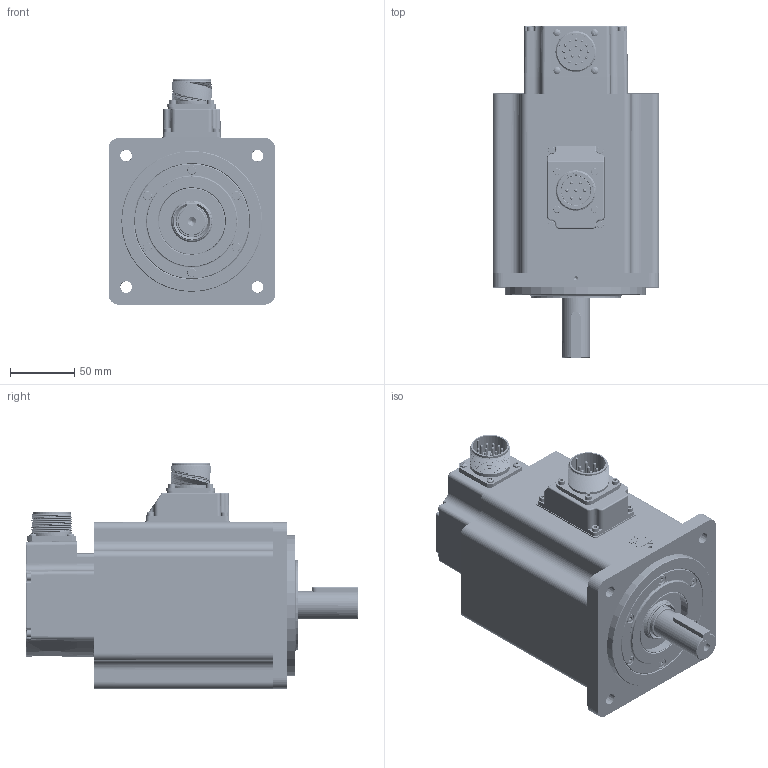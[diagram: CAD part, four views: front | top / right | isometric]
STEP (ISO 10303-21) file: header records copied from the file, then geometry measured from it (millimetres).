
FILE_DESCRIPTION(/* description */ ('AdapterTestApp'),/* implementation_level */ '2;1');
FILE_NAME(/* name */ 'TCE130 5F XX 3 A1 1 C3',/* time_stamp */ '2015-09-07T14:36:31+02:00',/* author */ ('AdapterTestApp'),/* organization */ ('Siemens PLM Software'),/* preprocessor_version */ 'ST-DEVELOPER v15.6',/* originating_system */ 'DEX',/* authorisation */ $);
FILE_SCHEMA (('AUTOMOTIVE_DESIGN {1 0 10303 214 3 1 1}'));
Products named in the file (35): TCE130 5F XX 3 A1 1 C3_vuoto; U5160002_vuoto; 003120002514; 003799000580; 003303000370; 003303000373; 005117001750; 005911000201; 005911000150; cap-M3 nudo; 005123001528; 003155002049; N0160022; 005911000493; 005123000600; 003103001510; 005911000430; 003251022006; 005751000410; 005911003646; 005113002005; back cover TCE100 + CN MIL; 001107000620; 005911000525; 003108015154; 005009000203; 005204000001; 005204000002; 005119000340; 005008000842; 005008000302; 005008000690; 005007000170; 005204000003; 003155002050
Assembly tree (65 placements, depth 3):
  TCE130 5F XX 3 A1 1 C3_vuoto
    U5160002_vuoto
      003120002514
      003799000580
      003303000370
      003303000373
      005117001750
      005911000201  x8
      005911000150
      cap-M3 nudo
    005123001528
    003155002049
    N0160022
    005911000493  x4
    005123000600
    003103001510
    005911000430  x10
    003251022006
    005751000410
    005911003646  x8
    005113002005
    back cover TCE100 + CN MIL
      001107000620
      003303000373
      005911000525  x4
      003108015154
    005009000203
    005204000001
    005204000002
    005119000340
    005008000842
    005008000302
    005008000690  x2
    005007000170
    005204000003
    003155002050
Bounding box: 130.3 x 259 x 175.8 mm (x, y, z)
Volume: 1120551.7 mm3; surface area: 414038.1 mm2
Topology: 78 solids, 88 shells, 3086 faces, 7627 edges, 4911 vertices
Faces by surface type: plane 1554, cylinder 761, extrusion 233, cone 173, torus 154, bspline 139, sphere 72
Full cylindrical faces by diameter (mm): 2 x34, 2.224 x1, 2.4 x8, 2.459 x23, 2.5 x3, 2.6 x1, 2.8 x7, 2.9 x4, 3 x30, 3.048 x4, 3.2 x5, 3.242 x30, 3.5 x15, 3.6 x1, 3.7 x8, 3.8 x2, 4 x23, 4.134 x16, 4.5 x10, 4.7 x11, 5 x8, 5.1 x1, 5.5 x35, 5.6 x4, 5.8 x6, 6.647 x2, 7 x10, 8 x12, 8.5 x8, 10 x1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
Entity records: 94120 total; most frequent: CARTESIAN_POINT 33905, ORIENTED_EDGE 11486, DIRECTION 11374, EDGE_CURVE 5743, VERTEX_POINT 4052, AXIS2_PLACEMENT_3D 3977, FACE_BOUND 3611, EDGE_LOOP 3554
